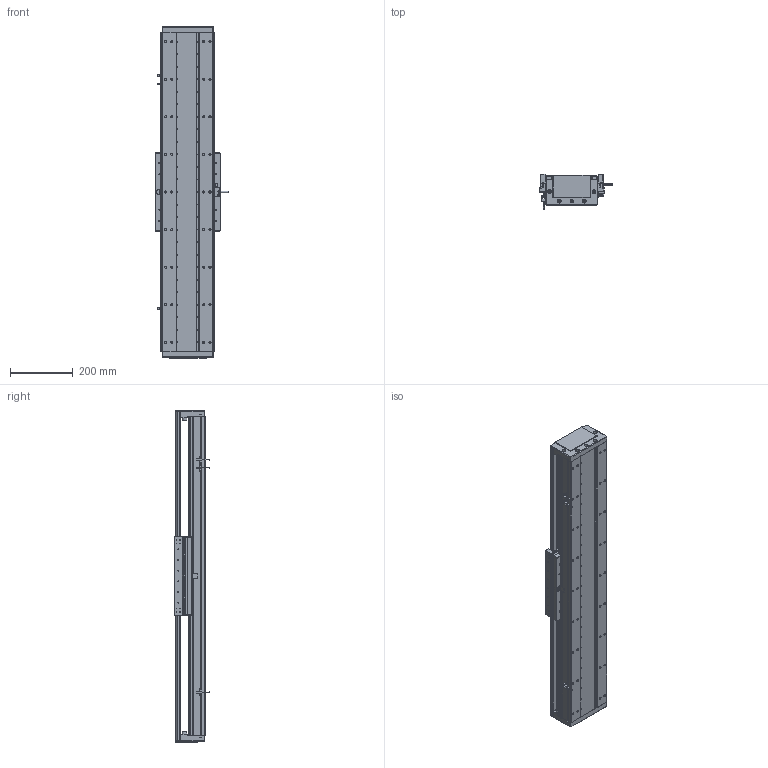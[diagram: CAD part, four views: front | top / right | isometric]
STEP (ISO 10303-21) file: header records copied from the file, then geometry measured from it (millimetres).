
FILE_DESCRIPTION (( 'STEP AP203' ), '1' );
FILE_NAME ('DA-C165-C3-T720-C010-0.2 直线电机.STEP', '2023-06-13T08:40:52', ( '微软用户' ), ( '微软中国' ), 'SwSTEP 2.0', 'SolidWorks 2019', '' );
FILE_SCHEMA (( 'CONFIG_CONTROL_DESIGN' ));
Length unit declared in the file: millimetre
Products named in the file (15): DA-C165-C3-T720-C010-0.2 眻盄萇儂; IU-CU165-L 菁釱絳寢; 复件 六角薄螺母 M3^DA-C165-C3-T-C010-0.2-N 直线电机_GB_FASTENER_NUT_STNAB M3-C; 珨极趙賑雄怢啣C3-wf; 葩璃 CKM01-W075-TRL^DA-C165-C3-T-C010-0.2-N 眻盄萇儂; 复件 DA165-GYP-00 光电感应片^DA-C165-C3-T-C010-0.2-N 直线电机; 葩璃 PM-T45^DA-C165-C3-T-C010-0.2-N 眻盄萇儂; 复件 DMA-010-0.2 读数头^DA-C165-C3-T-C010-0.2-N 直线电机; 复件 DA165-T-002-00 盖板^DA-C165-C3-T-C010-0.2-N 直线电机_0840-002-00; 葩璃 CKM03-W075-C1C2-TP-3.0^DA-C165-C3-T-C010-0.2-N 眻盄萇儂; 复件 DA95-HXJ-00 缓冲橡胶^DA-C165-C3-T-C010-0.2-N 直线电机; 复件 DA165-DG-H-N-00 端盖^DA-C165-C3-T-C010-0.2-N 直线电机; 葩璃 DA95-GT-T-00^IU-CU165-L 菁釱絳寢_T; 复件 XD-U-02L 磁栅尺^DA-C165-C3-T-C010-0.2-N 直线电机_T; 复件 CU165 底座^IU-CU165-L 底座导轨_L1020
Assembly tree (30 placements, depth 3):
  DA-C165-C3-T720-C010-0.2 眻盄萇儂
    IU-CU165-L 菁釱絳寢
      复件 CU165 底座^IU-CU165-L 底座导轨_L1020
      葩璃 DA95-GT-T-00^IU-CU165-L 菁釱絳寢_T  x4
    复件 DA165-DG-H-N-00 端盖^DA-C165-C3-T-C010-0.2-N 直线电机  x2
    复件 DA95-HXJ-00 缓冲橡胶^DA-C165-C3-T-C010-0.2-N 直线电机  x4
    复件 DA165-T-002-00 盖板^DA-C165-C3-T-C010-0.2-N 直线电机_0840-002-00
    复件 XD-U-02L 磁栅尺^DA-C165-C3-T-C010-0.2-N 直线电机_T
    葩璃 PM-T45^DA-C165-C3-T-C010-0.2-N 眻盄萇儂  x3
    葩璃 CKM01-W075-TRL^DA-C165-C3-T-C010-0.2-N 眻盄萇儂
    复件 DA165-GYP-00 光电感应片^DA-C165-C3-T-C010-0.2-N 直线电机
    复件 DMA-010-0.2 读数头^DA-C165-C3-T-C010-0.2-N 直线电机
    葩璃 CKM03-W075-C1C2-TP-3.0^DA-C165-C3-T-C010-0.2-N 眻盄萇儂
    复件 六角薄螺母 M3^DA-C165-C3-T-C010-0.2-N 直线电机_GB_FASTENER_NUT_STNAB M3-C  x8
    珨极趙賑雄怢啣C3-wf
Bounding box: 233 x 111.45 x 1060 mm (x, y, z)
Volume: 8298694.8 mm3; surface area: 2202865.1 mm2
Topology: 68 solids, 118 shells, 3555 faces, 9514 edges, 5896 vertices
Faces by surface type: cylinder 1770, plane 1175, cone 552, torus 54, sphere 4
Entity records: 105297 total; most frequent: CARTESIAN_POINT 24936, DIRECTION 16688, ORIENTED_EDGE 16082, EDGE_CURVE 8041, AXIS2_PLACEMENT_3D 6320, VERTEX_POINT 5184, LINE 4048, VECTOR 4048
